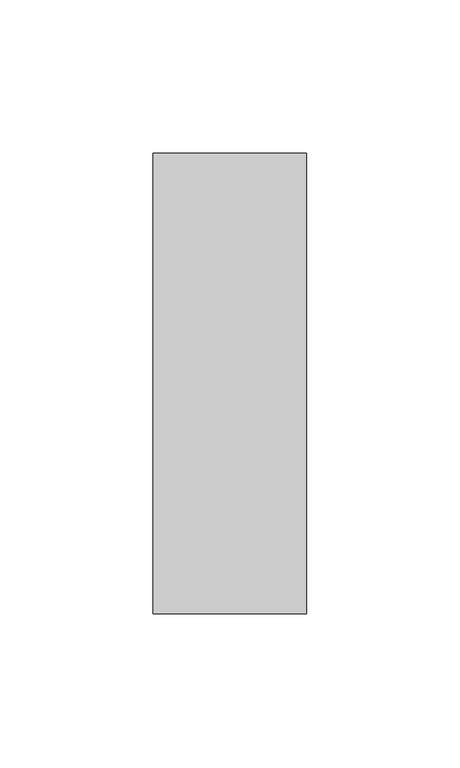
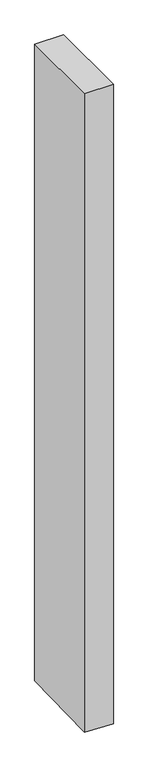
"""IFC4 building model written with IfcOpenShell, lengths in millimetres: member geometry, Прямоугольный импост : 50 x 150 мм."""

from ifc_helpers import new_model, si_unit, origin, place, context, project, spatial, faceted_brep, source, transform, mapped, element, save


def member_7ba3c195(model_context):
    return source(origin(), model_context, "Body", "Brep", [
        faceted_brep([(25.0, 75.0, 0.0), (-25.0, 75.0, 0.0), (-25.0, -75.0, 0.0), (25.0, -75.0, 0.0), (25.0, 75.0, -1170.3441352), (-25.0, 75.0, -1168.8378176), (-25.0, -75.0, -1172.6226993), (25.0, -75.0, -1174.1290168)], [[[0, 1, 2, 3]], [[1, 0, 4, 5]], [[2, 1, 5, 6]], [[3, 2, 6, 7]], [[0, 3, 7, 4]], [[4, 7, 6, 5]]]),
    ])


if __name__ == "__main__":
    model = new_model("IFC4")
    model_context = context("Model", 3, world=origin())
    ifc_project = project(units=[si_unit("LENGTHUNIT", "METRE", prefix="MILLI")], contexts=[model_context])
    site = spatial("IfcSite", under=ifc_project)
    building = spatial("IfcBuilding", under=site)
    placement = place(None, origin())
    member_shape = member_7ba3c195(model_context)
    element("IfcMember", 1, ObjectType="Прямоугольный импост : 50 x 150 мм", at=placement, inside=building, context=model_context, shape_type="MappedRepresentation", body=[
        mapped(member_shape, transform((0.0, 0.0, 0.0), x_axis=(1.0, 0.0, 0.0), y_axis=(0.0, 1.0, 0.0), z_axis=(0.0, 0.0, 1.0))),
    ])
    save(model, "model.ifc")
